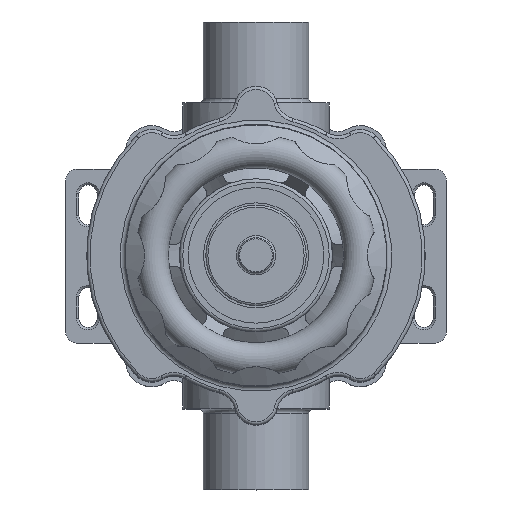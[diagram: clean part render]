
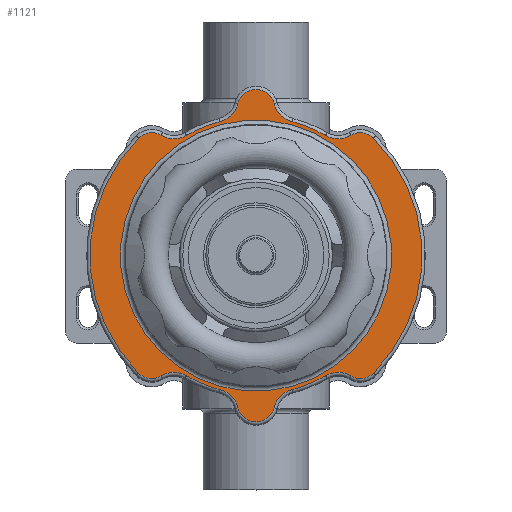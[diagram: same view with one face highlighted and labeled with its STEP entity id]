
A CAD part, top view. The second image highlights one B-rep face of the part: STEP entity #1121.
In plain terms, the highlighted planar face has unit normal (0, 0, 1).
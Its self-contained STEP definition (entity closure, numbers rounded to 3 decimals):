
#674=FACE_BOUND('',#2879,.T.);
#675=FACE_BOUND('',#2880,.T.);
#853=PLANE('',#12993);
#1121=ADVANCED_FACE('',(#674,#675),#853,.T.);
#2879=EDGE_LOOP('',(#5321));
#2880=EDGE_LOOP('',(#5322,#5323,#5324,#5325,#5326,#5327,#5328,#5329,#5330,
#5331,#5332,#5333,#5334,#5335,#5336,#5337,#5338,#5339,#5340,#5341));
#5321=ORIENTED_EDGE('',*,*,#10216,.F.);
#5322=ORIENTED_EDGE('',*,*,#10220,.F.);
#5323=ORIENTED_EDGE('',*,*,#10221,.F.);
#5324=ORIENTED_EDGE('',*,*,#10222,.F.);
#5325=ORIENTED_EDGE('',*,*,#10223,.F.);
#5326=ORIENTED_EDGE('',*,*,#10224,.F.);
#5327=ORIENTED_EDGE('',*,*,#10225,.F.);
#5328=ORIENTED_EDGE('',*,*,#10226,.F.);
#5329=ORIENTED_EDGE('',*,*,#10227,.F.);
#5330=ORIENTED_EDGE('',*,*,#10228,.F.);
#5331=ORIENTED_EDGE('',*,*,#10229,.F.);
#5332=ORIENTED_EDGE('',*,*,#10230,.F.);
#5333=ORIENTED_EDGE('',*,*,#10231,.F.);
#5334=ORIENTED_EDGE('',*,*,#10232,.F.);
#5335=ORIENTED_EDGE('',*,*,#10233,.F.);
#5336=ORIENTED_EDGE('',*,*,#10234,.F.);
#5337=ORIENTED_EDGE('',*,*,#10235,.F.);
#5338=ORIENTED_EDGE('',*,*,#10236,.F.);
#5339=ORIENTED_EDGE('',*,*,#10237,.F.);
#5340=ORIENTED_EDGE('',*,*,#10238,.F.);
#5341=ORIENTED_EDGE('',*,*,#10239,.F.);
#9003=VERTEX_POINT('',#18468);
#9006=VERTEX_POINT('',#18480);
#9007=VERTEX_POINT('',#18481);
#9008=VERTEX_POINT('',#18483);
#9009=VERTEX_POINT('',#18485);
#9010=VERTEX_POINT('',#18487);
#9011=VERTEX_POINT('',#18489);
#9012=VERTEX_POINT('',#18491);
#9013=VERTEX_POINT('',#18493);
#9014=VERTEX_POINT('',#18495);
#9015=VERTEX_POINT('',#18497);
#9016=VERTEX_POINT('',#18499);
#9017=VERTEX_POINT('',#18501);
#9018=VERTEX_POINT('',#18503);
#9019=VERTEX_POINT('',#18505);
#9020=VERTEX_POINT('',#18507);
#9021=VERTEX_POINT('',#18509);
#9022=VERTEX_POINT('',#18511);
#9023=VERTEX_POINT('',#18513);
#9024=VERTEX_POINT('',#18515);
#9025=VERTEX_POINT('',#18517);
#10216=EDGE_CURVE('',#9003,#9003,#12082,.T.);
#10220=EDGE_CURVE('',#9006,#9007,#12086,.T.);
#10221=EDGE_CURVE('',#9008,#9006,#12087,.T.);
#10222=EDGE_CURVE('',#9009,#9008,#12088,.T.);
#10223=EDGE_CURVE('',#9010,#9009,#12089,.T.);
#10224=EDGE_CURVE('',#9011,#9010,#12090,.T.);
#10225=EDGE_CURVE('',#9012,#9011,#12091,.T.);
#10226=EDGE_CURVE('',#9013,#9012,#12092,.T.);
#10227=EDGE_CURVE('',#9014,#9013,#12093,.T.);
#10228=EDGE_CURVE('',#9015,#9014,#12094,.T.);
#10229=EDGE_CURVE('',#9016,#9015,#12095,.T.);
#10230=EDGE_CURVE('',#9017,#9016,#12096,.T.);
#10231=EDGE_CURVE('',#9018,#9017,#12097,.T.);
#10232=EDGE_CURVE('',#9019,#9018,#12098,.T.);
#10233=EDGE_CURVE('',#9020,#9019,#12099,.T.);
#10234=EDGE_CURVE('',#9021,#9020,#12100,.T.);
#10235=EDGE_CURVE('',#9022,#9021,#12101,.T.);
#10236=EDGE_CURVE('',#9023,#9022,#12102,.T.);
#10237=EDGE_CURVE('',#9024,#9023,#12103,.T.);
#10238=EDGE_CURVE('',#9025,#9024,#12104,.T.);
#10239=EDGE_CURVE('',#9007,#9025,#12105,.T.);
#12082=CIRCLE('',#12964,62.);
#12086=CIRCLE('',#12973,11.5);
#12087=CIRCLE('',#12974,8.5);
#12088=CIRCLE('',#12975,11.5);
#12089=CIRCLE('',#12976,63.5);
#12090=CIRCLE('',#12977,11.5);
#12091=CIRCLE('',#12978,8.5);
#12092=CIRCLE('',#12979,76.);
#12093=CIRCLE('',#12980,8.5);
#12094=CIRCLE('',#12981,11.5);
#12095=CIRCLE('',#12982,63.5);
#12096=CIRCLE('',#12983,11.5);
#12097=CIRCLE('',#12984,8.5);
#12098=CIRCLE('',#12985,11.5);
#12099=CIRCLE('',#12986,63.5);
#12100=CIRCLE('',#12987,11.5);
#12101=CIRCLE('',#12988,8.5);
#12102=CIRCLE('',#12989,76.);
#12103=CIRCLE('',#12990,8.5);
#12104=CIRCLE('',#12991,11.5);
#12105=CIRCLE('',#12992,63.5);
#12964=AXIS2_PLACEMENT_3D('',#18467,#14623,#14624);
#12973=AXIS2_PLACEMENT_3D('',#18479,#14641,#14642);
#12974=AXIS2_PLACEMENT_3D('',#18482,#14643,#14644);
#12975=AXIS2_PLACEMENT_3D('',#18484,#14645,#14646);
#12976=AXIS2_PLACEMENT_3D('',#18486,#14647,#14648);
#12977=AXIS2_PLACEMENT_3D('',#18488,#14649,#14650);
#12978=AXIS2_PLACEMENT_3D('',#18490,#14651,#14652);
#12979=AXIS2_PLACEMENT_3D('',#18492,#14653,#14654);
#12980=AXIS2_PLACEMENT_3D('',#18494,#14655,#14656);
#12981=AXIS2_PLACEMENT_3D('',#18496,#14657,#14658);
#12982=AXIS2_PLACEMENT_3D('',#18498,#14659,#14660);
#12983=AXIS2_PLACEMENT_3D('',#18500,#14661,#14662);
#12984=AXIS2_PLACEMENT_3D('',#18502,#14663,#14664);
#12985=AXIS2_PLACEMENT_3D('',#18504,#14665,#14666);
#12986=AXIS2_PLACEMENT_3D('',#18506,#14667,#14668);
#12987=AXIS2_PLACEMENT_3D('',#18508,#14669,#14670);
#12988=AXIS2_PLACEMENT_3D('',#18510,#14671,#14672);
#12989=AXIS2_PLACEMENT_3D('',#18512,#14673,#14674);
#12990=AXIS2_PLACEMENT_3D('',#18514,#14675,#14676);
#12991=AXIS2_PLACEMENT_3D('',#18516,#14677,#14678);
#12992=AXIS2_PLACEMENT_3D('',#18518,#14679,#14680);
#12993=AXIS2_PLACEMENT_3D('',#18519,#14681,#14682);
#14623=DIRECTION('',(0.,0.,1.));
#14624=DIRECTION('',(-1.,0.,0.));
#14641=DIRECTION('',(0.,0.,1.));
#14642=DIRECTION('',(-1.,0.006,0.));
#14643=DIRECTION('',(0.,0.,-1.));
#14644=DIRECTION('',(0.707,0.707,0.));
#14645=DIRECTION('',(0.,0.,1.));
#14646=DIRECTION('',(0.006,-1.,0.));
#14647=DIRECTION('',(0.,0.,-1.));
#14648=DIRECTION('',(0.383,0.924,0.));
#14649=DIRECTION('',(0.,0.,1.));
#14650=DIRECTION('',(-0.711,-0.703,0.));
#14651=DIRECTION('',(0.,0.,-1.));
#14652=DIRECTION('',(0.613,0.79,0.));
#14653=DIRECTION('',(0.,0.,-1.));
#14654=DIRECTION('',(-0.707,0.707,0.));
#14655=DIRECTION('',(0.,0.,-1.));
#14656=DIRECTION('',(-0.79,-0.613,0.));
#14657=DIRECTION('',(0.,0.,1.));
#14658=DIRECTION('',(0.703,0.711,0.));
#14659=DIRECTION('',(0.,0.,-1.));
#14660=DIRECTION('',(-0.924,-0.383,0.));
#14661=DIRECTION('',(0.,0.,1.));
#14662=DIRECTION('',(1.,-0.006,0.));
#14663=DIRECTION('',(0.,0.,-1.));
#14664=DIRECTION('',(-0.707,-0.707,0.));
#14665=DIRECTION('',(0.,0.,1.));
#14666=DIRECTION('',(-0.006,1.,0.));
#14667=DIRECTION('',(0.,0.,-1.));
#14668=DIRECTION('',(-0.383,-0.924,0.));
#14669=DIRECTION('',(0.,0.,1.));
#14670=DIRECTION('',(0.711,0.703,0.));
#14671=DIRECTION('',(0.,0.,-1.));
#14672=DIRECTION('',(-0.613,-0.79,0.));
#14673=DIRECTION('',(0.,0.,-1.));
#14674=DIRECTION('',(0.707,-0.707,0.));
#14675=DIRECTION('',(0.,0.,-1.));
#14676=DIRECTION('',(0.79,0.613,0.));
#14677=DIRECTION('',(0.,0.,1.));
#14678=DIRECTION('',(-0.703,-0.711,0.));
#14679=DIRECTION('',(0.,0.,-1.));
#14680=DIRECTION('',(0.924,0.383,0.));
#14681=DIRECTION('',(0.,0.,1.));
#14682=DIRECTION('',(-1.,0.,0.));
#18467=CARTESIAN_POINT('',(0.,0.,33.));
#18468=CARTESIAN_POINT('',(-62.,0.,33.));
#18479=CARTESIAN_POINT('',(64.934,37.531,33.));
#18480=CARTESIAN_POINT('',(55.042,43.395,33.));
#18481=CARTESIAN_POINT('',(54.977,31.776,33.));
#18482=CARTESIAN_POINT('',(47.73,47.73,33.));
#18483=CARTESIAN_POINT('',(43.395,55.042,33.));
#18484=CARTESIAN_POINT('',(37.531,64.934,33.));
#18485=CARTESIAN_POINT('',(31.776,54.977,33.));
#18486=CARTESIAN_POINT('',(0.,0.,33.));
#18487=CARTESIAN_POINT('',(16.406,61.344,33.));
#18488=CARTESIAN_POINT('',(19.377,72.454,33.));
#18489=CARTESIAN_POINT('',(8.235,69.605,33.));
#18490=CARTESIAN_POINT('',(0.,67.5,33.));
#18491=CARTESIAN_POINT('',(0.,76.,33.));
#18492=CARTESIAN_POINT('',(0.,0.,33.));
#18493=CARTESIAN_POINT('',(-76.,0.,33.));
#18494=CARTESIAN_POINT('',(-67.5,0.,33.));
#18495=CARTESIAN_POINT('',(-69.605,-8.235,33.));
#18496=CARTESIAN_POINT('',(-72.454,-19.377,33.));
#18497=CARTESIAN_POINT('',(-61.344,-16.406,33.));
#18498=CARTESIAN_POINT('',(0.,0.,33.));
#18499=CARTESIAN_POINT('',(-54.977,-31.776,33.));
#18500=CARTESIAN_POINT('',(-64.934,-37.531,33.));
#18501=CARTESIAN_POINT('',(-55.042,-43.395,33.));
#18502=CARTESIAN_POINT('',(-47.73,-47.73,33.));
#18503=CARTESIAN_POINT('',(-43.395,-55.042,33.));
#18504=CARTESIAN_POINT('',(-37.531,-64.934,33.));
#18505=CARTESIAN_POINT('',(-31.776,-54.977,33.));
#18506=CARTESIAN_POINT('',(0.,0.,33.));
#18507=CARTESIAN_POINT('',(-16.406,-61.344,33.));
#18508=CARTESIAN_POINT('',(-19.377,-72.454,33.));
#18509=CARTESIAN_POINT('',(-8.235,-69.605,33.));
#18510=CARTESIAN_POINT('',(0.,-67.5,33.));
#18511=CARTESIAN_POINT('',(0.,-76.,33.));
#18512=CARTESIAN_POINT('',(0.,0.,33.));
#18513=CARTESIAN_POINT('',(76.,0.,33.));
#18514=CARTESIAN_POINT('',(67.5,0.,33.));
#18515=CARTESIAN_POINT('',(69.605,8.235,33.));
#18516=CARTESIAN_POINT('',(72.454,19.377,33.));
#18517=CARTESIAN_POINT('',(61.344,16.406,33.));
#18518=CARTESIAN_POINT('',(0.,0.,33.));
#18519=CARTESIAN_POINT('',(0.,0.,33.));
